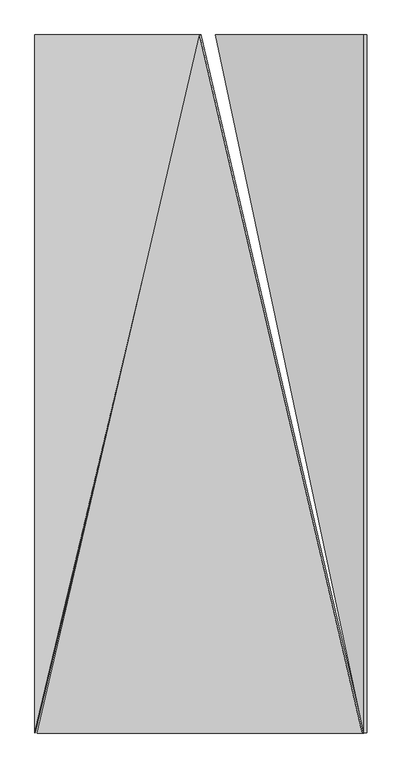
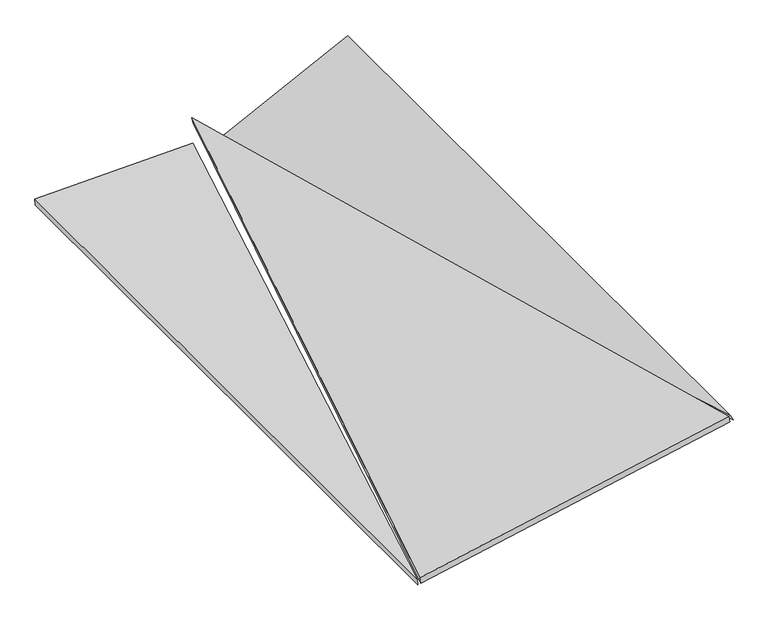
"""IFC4 building model written with IfcOpenShell, lengths in millimetres: proxy geometry, panel sufitowy 6 : panel sufitowy 6."""

from ifc_helpers import new_model, si_unit, frame, origin, place, context, project, spatial, polyline, outline, extrude, source, transform, mapped, element, save


def generic_models_2737dbee(model_context):
    return source(origin(), model_context, "Body", "SweptSolid", [
        extrude(outline(polyline([(-900.9098917, 0.0), (1006.190989, 962.7191945), (1235.4098448, 0.0), (-900.9098917, 0.0)])), frame((544.5239341, 1457.4151922, 1295.037712), z_axis=(-0.19936793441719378, 0.0, 0.9799247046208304), x_axis=(-0.22697067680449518, -0.9728062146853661, -0.04617770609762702)), (0.0, 0.0, 1.0), 20.0),
        extrude(outline(polyline([(-127.5, 0.0), (-127.5, -2079.0), (-622.5, 0.0), (-127.5, 0.0)])), frame((1357.6962411, 2335.0, 1494.154961), z_axis=(-0.44619781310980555, 0.0, 0.8949343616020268), x_axis=(0.8949343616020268, 0.0, 0.44619781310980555)), (0.0, 0.0, 1.0), 20.0),
        extrude(outline(polyline([(-127.5000001, 0.0), (-622.5, 0.0), (-127.5000001, 2079.0), (-127.5000001, 0.0)])), frame((126.4118494, 2335.0, 1232.5655652), z_axis=(-0.026176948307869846, 0.0, 0.9996573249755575), x_axis=(-0.9996573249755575, 0.0, -0.026176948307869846)), (0.0, 0.0, 1.0), 20.0),
    ])


if __name__ == "__main__":
    model = new_model("IFC4")
    model_context = context("Model", 3, world=origin())
    ifc_project = project(units=[si_unit("LENGTHUNIT", "METRE", prefix="MILLI")], contexts=[model_context])
    site = spatial("IfcSite", under=ifc_project)
    building = spatial("IfcBuilding", under=site)
    placement = place(None, origin())
    generic_models_shape = generic_models_2737dbee(model_context)
    element("IfcBuildingElementProxy", 1, Name="panel sufitowy 6 : panel sufitowy 6", ObjectType="panel sufitowy 6 : panel sufitowy 6", at=placement, inside=building, context=model_context, shape_type="MappedRepresentation", body=[
        mapped(generic_models_shape, transform((0.0, 0.0, 0.0), x_axis=(1.0, 0.0, 0.0), y_axis=(0.0, 1.0, 0.0), z_axis=(0.0, 0.0, 1.0))),
    ])
    save(model, "model.ifc")
